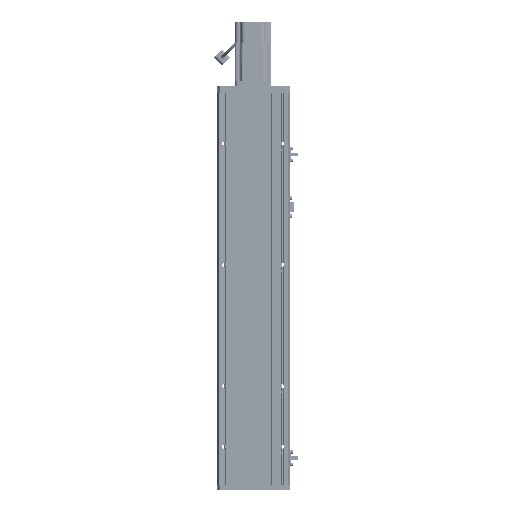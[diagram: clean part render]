
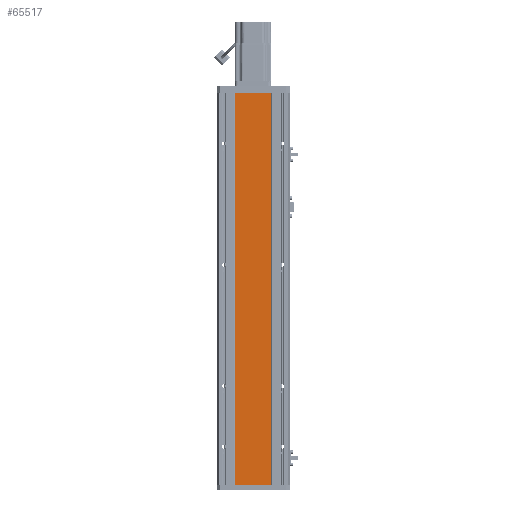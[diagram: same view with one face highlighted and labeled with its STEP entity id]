
A CAD part, front view. The second image highlights one B-rep face of the part: STEP entity #65517.
In plain terms, the highlighted planar face has unit normal (0, -1, 0).
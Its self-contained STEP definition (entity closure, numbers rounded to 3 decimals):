
#1167 = LINE ( 'NONE', #66506, #43118 ) ;
#3129 = VERTEX_POINT ( 'NONE', #57952 ) ;
#7860 = DIRECTION ( 'NONE',  ( -1., 0., 0. ) ) ;
#13304 = DIRECTION ( 'NONE',  ( 0., 1., 0. ) ) ;
#13680 = DIRECTION ( 'NONE',  ( -1., 0., 0. ) ) ;
#17842 = EDGE_CURVE ( 'NONE', #85424, #32820, #76352, .T. ) ;
#21807 = ORIENTED_EDGE ( 'NONE', *, *, #73966, .T. ) ;
#22884 = FACE_OUTER_BOUND ( 'NONE', #86312, .T. ) ;
#28513 = CARTESIAN_POINT ( 'NONE',  ( 30., 0., -646.5 ) ) ;
#31188 = DIRECTION ( 'NONE',  ( 0., 0., 1. ) ) ;
#32820 = VERTEX_POINT ( 'NONE', #107757 ) ;
#33130 = VERTEX_POINT ( 'NONE', #70287 ) ;
#34919 = LINE ( 'NONE', #95821, #82254 ) ;
#39281 = CARTESIAN_POINT ( 'NONE',  ( 30., 0., -646.5 ) ) ;
#39637 = LINE ( 'NONE', #39281, #59341 ) ;
#40543 = ORIENTED_EDGE ( 'NONE', *, *, #17842, .F. ) ;
#43118 = VECTOR ( 'NONE', #7860, 1000. ) ;
#45598 = DIRECTION ( 'NONE',  ( 0., 0., 1. ) ) ;
#48869 = EDGE_CURVE ( 'NONE', #85424, #3129, #39637, .T. ) ;
#57952 = CARTESIAN_POINT ( 'NONE',  ( 30., 0., 0. ) ) ;
#59341 = VECTOR ( 'NONE', #31188, 1000. ) ;
#65517 = ADVANCED_FACE ( 'NONE', ( #22884 ), #88545, .F. ) ;
#66506 = CARTESIAN_POINT ( 'NONE',  ( 30., 0., 0. ) ) ;
#70287 = CARTESIAN_POINT ( 'NONE',  ( -30., 0., 0. ) ) ;
#71073 = VECTOR ( 'NONE', #13680, 1000. ) ;
#71970 = DIRECTION ( 'NONE',  ( -1., 0., 0. ) ) ;
#72317 = CARTESIAN_POINT ( 'NONE',  ( 30., 0., -646.5 ) ) ;
#73966 = EDGE_CURVE ( 'NONE', #3129, #33130, #1167, .T. ) ;
#76352 = LINE ( 'NONE', #72317, #71073 ) ;
#82254 = VECTOR ( 'NONE', #45598, 1000. ) ;
#85424 = VERTEX_POINT ( 'NONE', #28513 ) ;
#86312 = EDGE_LOOP ( 'NONE', ( #21807, #107898, #40543, #94419 ) ) ;
#88179 = CARTESIAN_POINT ( 'NONE',  ( 30., 0., -646.5 ) ) ;
#88545 = PLANE ( 'NONE',  #106323 ) ;
#94419 = ORIENTED_EDGE ( 'NONE', *, *, #48869, .T. ) ;
#95821 = CARTESIAN_POINT ( 'NONE',  ( -30., 0., -646.5 ) ) ;
#103174 = EDGE_CURVE ( 'NONE', #32820, #33130, #34919, .T. ) ;
#106323 = AXIS2_PLACEMENT_3D ( 'NONE', #88179, #13304, #71970 ) ;
#107757 = CARTESIAN_POINT ( 'NONE',  ( -30., 0., -646.5 ) ) ;
#107898 = ORIENTED_EDGE ( 'NONE', *, *, #103174, .F. ) ;
